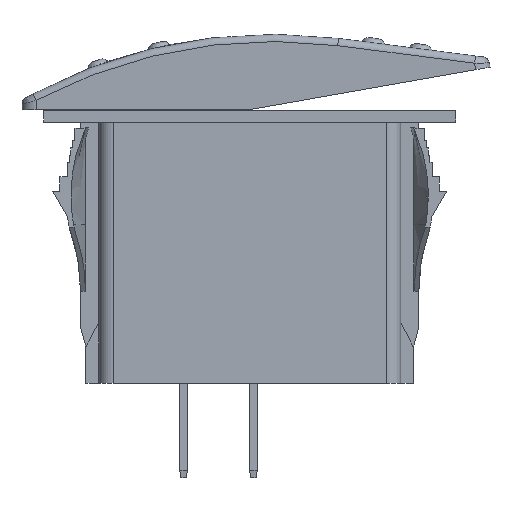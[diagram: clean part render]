
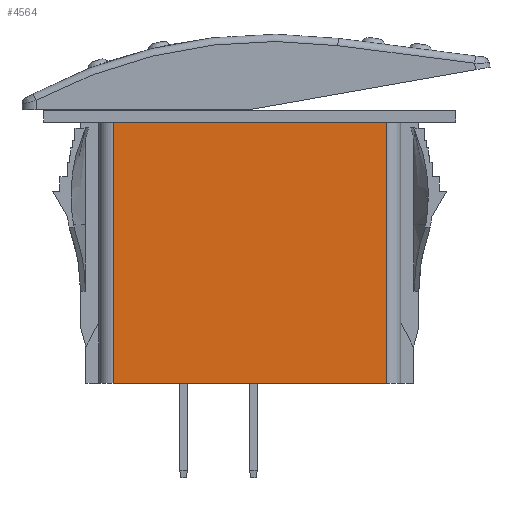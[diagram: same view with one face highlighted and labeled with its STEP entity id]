
A CAD part, left-side view. The second image highlights one B-rep face of the part: STEP entity #4564.
In plain terms, the highlighted planar face has unit normal (-1, 0, 0).
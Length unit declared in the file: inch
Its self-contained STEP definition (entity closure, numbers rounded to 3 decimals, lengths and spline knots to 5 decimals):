
#780=FACE_OUTER_BOUND('',#1044,.T.);
#1044=EDGE_LOOP('',(#4022,#4023,#4024,#4025));
#1423=LINE('',#8176,#1871);
#1454=LINE('',#8248,#1902);
#1539=LINE('',#8433,#1987);
#1541=LINE('',#8436,#1989);
#1871=VECTOR('',#5257,0.3937);
#1902=VECTOR('',#5304,0.3937);
#1987=VECTOR('',#5511,0.3937);
#1989=VECTOR('',#5515,0.3937);
#2256=VERTEX_POINT('',#8173);
#2257=VERTEX_POINT('',#8175);
#2289=VERTEX_POINT('',#8245);
#2290=VERTEX_POINT('',#8247);
#2775=EDGE_CURVE('',#2256,#2257,#1423,.T.);
#2812=EDGE_CURVE('',#2289,#2290,#1454,.T.);
#2904=EDGE_CURVE('',#2290,#2256,#1539,.T.);
#2906=EDGE_CURVE('',#2257,#2289,#1541,.T.);
#4022=ORIENTED_EDGE('',*,*,#2904,.F.);
#4023=ORIENTED_EDGE('',*,*,#2812,.F.);
#4024=ORIENTED_EDGE('',*,*,#2906,.F.);
#4025=ORIENTED_EDGE('',*,*,#2775,.F.);
#4357=PLANE('',#4772);
#4564=ADVANCED_FACE('',(#780),#4357,.T.);
#4772=AXIS2_PLACEMENT_3D('',#8441,#5523,#5524);
#5257=DIRECTION('',(0.,1.,0.));
#5304=DIRECTION('',(0.,-1.,0.));
#5511=DIRECTION('',(0.,0.,-1.));
#5515=DIRECTION('',(0.,0.,1.));
#5523=DIRECTION('center_axis',(-1.,0.,0.));
#5524=DIRECTION('ref_axis',(0.,-1.,0.));
#8173=CARTESIAN_POINT('',(-0.41,-0.565,-0.5405));
#8175=CARTESIAN_POINT('',(-0.41,0.565,-0.5405));
#8176=CARTESIAN_POINT('',(-0.41,-0.625,-0.5405));
#8245=CARTESIAN_POINT('',(-0.41,0.565,0.5405));
#8247=CARTESIAN_POINT('',(-0.41,-0.565,0.5405));
#8248=CARTESIAN_POINT('',(-0.41,-0.625,0.5405));
#8433=CARTESIAN_POINT('',(-0.41,-0.565,0.));
#8436=CARTESIAN_POINT('',(-0.41,0.565,0.));
#8441=CARTESIAN_POINT('Origin',(-0.41,0.625,0.));
